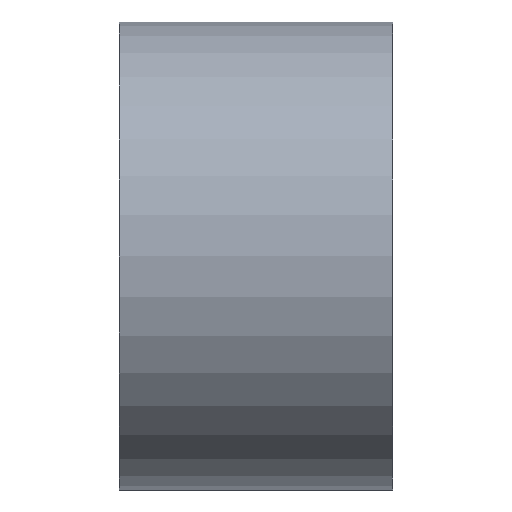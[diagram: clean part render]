
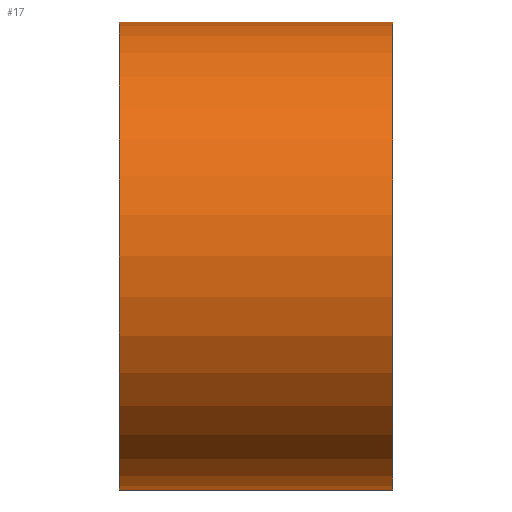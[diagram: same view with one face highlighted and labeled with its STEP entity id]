
A CAD part, front view. The second image highlights one B-rep face of the part: STEP entity #17.
In plain terms, the highlighted cylindrical face has radius 30 mm (diameter 60 mm), a full revolution.
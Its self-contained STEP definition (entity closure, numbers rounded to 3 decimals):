
#17 = ADVANCED_FACE('',(#18),#31,.T.);
#18 = FACE_BOUND('',#19,.T.);
#19 = EDGE_LOOP('',(#20,#54,#77,#104));
#20 = ORIENTED_EDGE('',*,*,#21,.F.);
#21 = EDGE_CURVE('',#22,#22,#24,.T.);
#22 = VERTEX_POINT('',#23);
#23 = CARTESIAN_POINT('',(555.,0.,30.));
#24 = SURFACE_CURVE('',#25,(#30,#42),.PCURVE_S1.);
#25 = CIRCLE('',#26,30.);
#26 = AXIS2_PLACEMENT_3D('',#27,#28,#29);
#27 = CARTESIAN_POINT('',(555.,0.,0.));
#28 = DIRECTION('',(1.,0.,0.));
#29 = DIRECTION('',(-0.,0.,1.));
#30 = PCURVE('',#31,#36);
#31 = CYLINDRICAL_SURFACE('',#32,30.);
#32 = AXIS2_PLACEMENT_3D('',#33,#34,#35);
#33 = CARTESIAN_POINT('',(520.,0.,0.));
#34 = DIRECTION('',(1.,0.,0.));
#35 = DIRECTION('',(-0.,0.,1.));
#36 = DEFINITIONAL_REPRESENTATION('',(#37),#41);
#37 = LINE('',#38,#39);
#38 = CARTESIAN_POINT('',(0.,35.));
#39 = VECTOR('',#40,1.);
#40 = DIRECTION('',(1.,0.));
#41 = ( GEOMETRIC_REPRESENTATION_CONTEXT(2) 
PARAMETRIC_REPRESENTATION_CONTEXT() REPRESENTATION_CONTEXT('2D SPACE',''
  ) );
#42 = PCURVE('',#43,#48);
#43 = PLANE('',#44);
#44 = AXIS2_PLACEMENT_3D('',#45,#46,#47);
#45 = CARTESIAN_POINT('',(555.,0.,0.));
#46 = DIRECTION('',(1.,0.,0.));
#47 = DIRECTION('',(-0.,0.,1.));
#48 = DEFINITIONAL_REPRESENTATION('',(#49),#53);
#49 = CIRCLE('',#50,30.);
#50 = AXIS2_PLACEMENT_2D('',#51,#52);
#51 = CARTESIAN_POINT('',(0.,0.));
#52 = DIRECTION('',(1.,0.));
#53 = ( GEOMETRIC_REPRESENTATION_CONTEXT(2) 
PARAMETRIC_REPRESENTATION_CONTEXT() REPRESENTATION_CONTEXT('2D SPACE',''
  ) );
#54 = ORIENTED_EDGE('',*,*,#55,.F.);
#55 = EDGE_CURVE('',#56,#22,#58,.T.);
#56 = VERTEX_POINT('',#57);
#57 = CARTESIAN_POINT('',(520.,0.,30.));
#58 = SEAM_CURVE('',#59,(#63,#70),.PCURVE_S1.);
#59 = LINE('',#60,#61);
#60 = CARTESIAN_POINT('',(520.,0.,30.));
#61 = VECTOR('',#62,1.);
#62 = DIRECTION('',(1.,0.,0.));
#63 = PCURVE('',#31,#64);
#64 = DEFINITIONAL_REPRESENTATION('',(#65),#69);
#65 = LINE('',#66,#67);
#66 = CARTESIAN_POINT('',(6.283,-0.));
#67 = VECTOR('',#68,1.);
#68 = DIRECTION('',(0.,1.));
#69 = ( GEOMETRIC_REPRESENTATION_CONTEXT(2) 
PARAMETRIC_REPRESENTATION_CONTEXT() REPRESENTATION_CONTEXT('2D SPACE',''
  ) );
#70 = PCURVE('',#31,#71);
#71 = DEFINITIONAL_REPRESENTATION('',(#72),#76);
#72 = LINE('',#73,#74);
#73 = CARTESIAN_POINT('',(0.,-0.));
#74 = VECTOR('',#75,1.);
#75 = DIRECTION('',(0.,1.));
#76 = ( GEOMETRIC_REPRESENTATION_CONTEXT(2) 
PARAMETRIC_REPRESENTATION_CONTEXT() REPRESENTATION_CONTEXT('2D SPACE',''
  ) );
#77 = ORIENTED_EDGE('',*,*,#78,.T.);
#78 = EDGE_CURVE('',#56,#56,#79,.T.);
#79 = SURFACE_CURVE('',#80,(#85,#92),.PCURVE_S1.);
#80 = CIRCLE('',#81,30.);
#81 = AXIS2_PLACEMENT_3D('',#82,#83,#84);
#82 = CARTESIAN_POINT('',(520.,0.,0.));
#83 = DIRECTION('',(1.,0.,0.));
#84 = DIRECTION('',(-0.,0.,1.));
#85 = PCURVE('',#31,#86);
#86 = DEFINITIONAL_REPRESENTATION('',(#87),#91);
#87 = LINE('',#88,#89);
#88 = CARTESIAN_POINT('',(0.,0.));
#89 = VECTOR('',#90,1.);
#90 = DIRECTION('',(1.,0.));
#91 = ( GEOMETRIC_REPRESENTATION_CONTEXT(2) 
PARAMETRIC_REPRESENTATION_CONTEXT() REPRESENTATION_CONTEXT('2D SPACE',''
  ) );
#92 = PCURVE('',#93,#98);
#93 = PLANE('',#94);
#94 = AXIS2_PLACEMENT_3D('',#95,#96,#97);
#95 = CARTESIAN_POINT('',(520.,0.,0.));
#96 = DIRECTION('',(1.,0.,0.));
#97 = DIRECTION('',(-0.,0.,1.));
#98 = DEFINITIONAL_REPRESENTATION('',(#99),#103);
#99 = CIRCLE('',#100,30.);
#100 = AXIS2_PLACEMENT_2D('',#101,#102);
#101 = CARTESIAN_POINT('',(0.,0.));
#102 = DIRECTION('',(1.,0.));
#103 = ( GEOMETRIC_REPRESENTATION_CONTEXT(2) 
PARAMETRIC_REPRESENTATION_CONTEXT() REPRESENTATION_CONTEXT('2D SPACE',''
  ) );
#104 = ORIENTED_EDGE('',*,*,#55,.T.);
